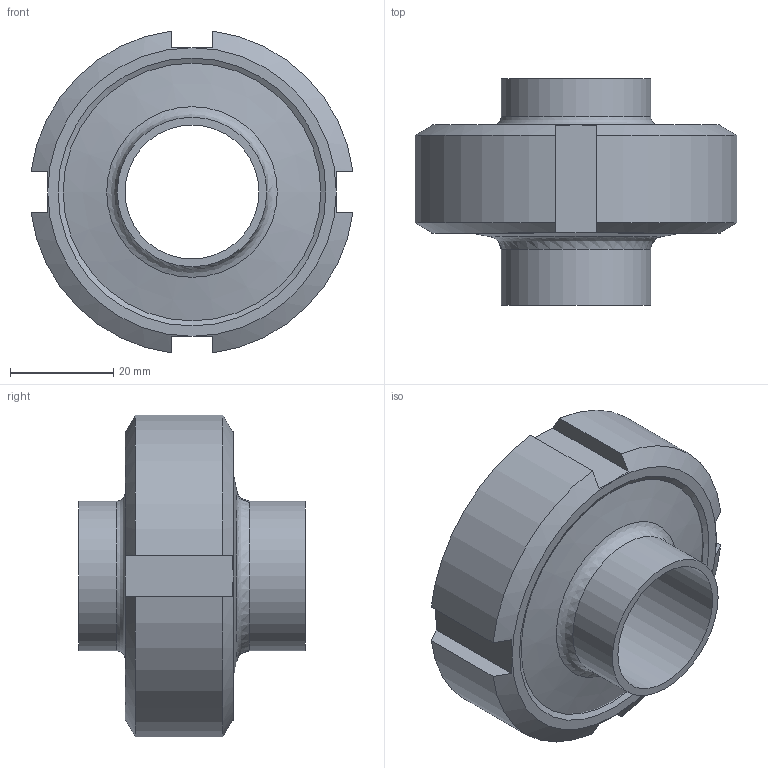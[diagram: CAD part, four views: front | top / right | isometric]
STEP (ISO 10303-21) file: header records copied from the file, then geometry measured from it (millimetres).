
FILE_DESCRIPTION((''),'2;1');
FILE_NAME('V:\Výkresy (KATALOG + NÁVODY)\3D-pdf\2xxxx\STEP\20120\2012-025-R ŠROUBENÍ PŘIVAŘOVACÍ.stp','2018-08-27T14:47:52',('fonai'),(''),'Autodesk Inventor 2010','Autodesk Inventor 2010','');
FILE_SCHEMA(('AUTOMOTIVE_DESIGN { 1 0 10303 214 1 1 1 1 }'));
Length unit declared in the file: millimetre
Products named in the file (5): 2012-025-R ŠROUBENÍ PŘIVAŘOVACÍ; 2010-025-R ZÁVITOVE HRDLO; 20040-025-Těsnění; 2011-025-R Kuželové hrdlo; 2003-025 Převlečná matice
Assembly tree (4 placements, depth 2):
  2012-025-R ŠROUBENÍ PŘIVAŘOVACÍ
    2010-025-R ZÁVITOVE HRDLO
    20040-025-Těsnění
    2011-025-R Kuželové hrdlo
    2003-025 Převlečná matice
Bounding box: 62.49 x 44 x 62.49 mm (x, y, z)
Volume: 53521.7 mm3; surface area: 28693 mm2
Topology: 4 solids, 4 shells, 59 faces, 120 edges, 74 vertices
Faces by surface type: plane 25, cone 16, cylinder 15, bspline 2, torus 1
Full cylindrical faces by diameter (mm): 26 x2, 29 x2, 30 x2, 35 x1, 36 x1, 40 x1, 50 x1, 52 x1
Entity records: 1643 total; most frequent: CARTESIAN_POINT 392, DIRECTION 248, ORIENTED_EDGE 196, AXIS2_PLACEMENT_3D 116, EDGE_CURVE 98, EDGE_LOOP 94, VERTEX_POINT 74, FACE_OUTER_BOUND 59
